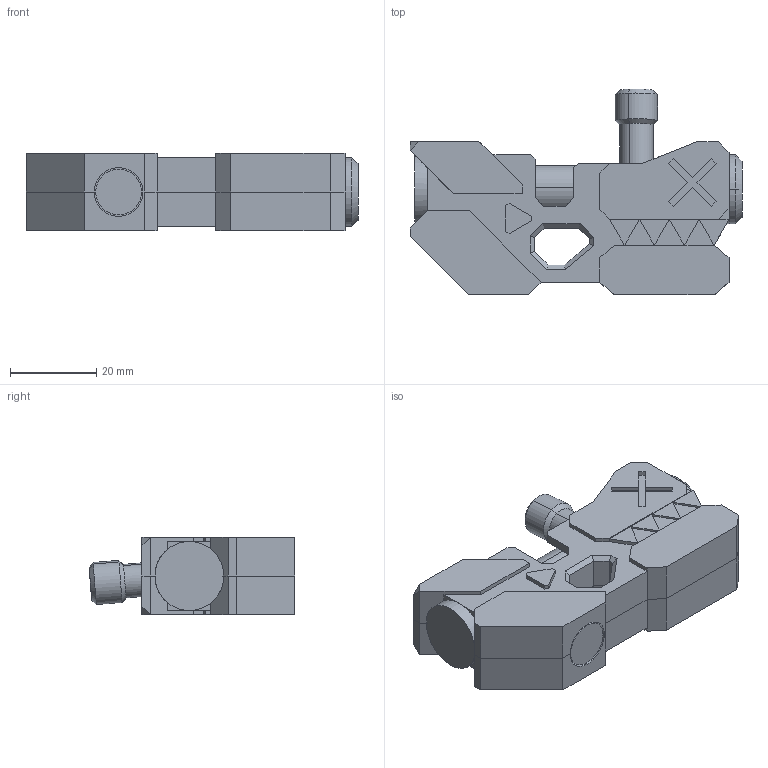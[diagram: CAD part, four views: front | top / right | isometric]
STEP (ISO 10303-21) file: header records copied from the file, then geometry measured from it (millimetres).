
FILE_DESCRIPTION (( 'STEP AP214' ), '1' );
FILE_NAME ('Bolt Action Fidget Assem.STEP', '2023-07-31T22:22:26', ( '' ), ( '' ), 'SwSTEP 2.0', 'SolidWorks 2021', '' );
FILE_SCHEMA (( 'AUTOMOTIVE_DESIGN' ));
Length unit declared in the file: inch
Products named in the file (8): Bottom Cap; magnet sample; Bolt Action Fidget Assem; End Cap 1; Bolt Action Fidget Body___; Center Bolt; End Cap 2; Bolt Handle
Assembly tree (13 placements, depth 2):
  Bolt Action Fidget Assem
    Bolt Action Fidget Body___
    Bolt Handle
    Bottom Cap
    End Cap 2
    End Cap 1
    Center Bolt
    magnet sample  x7
Bounding box: 77 x 47.74 x 18 mm (x, y, z)
Volume: 34715.8 mm3; surface area: 19693 mm2
Topology: 29 solids, 29 shells, 372 faces, 859 edges, 553 vertices
Faces by surface type: plane 292, cylinder 70, cone 8, bspline 2
Entity records: 10006 total; most frequent: CARTESIAN_POINT 1924, ORIENTED_EDGE 1570, DIRECTION 1516, EDGE_CURVE 785, LINE 658, VECTOR 658, VERTEX_POINT 505, AXIS2_PLACEMENT_3D 429
